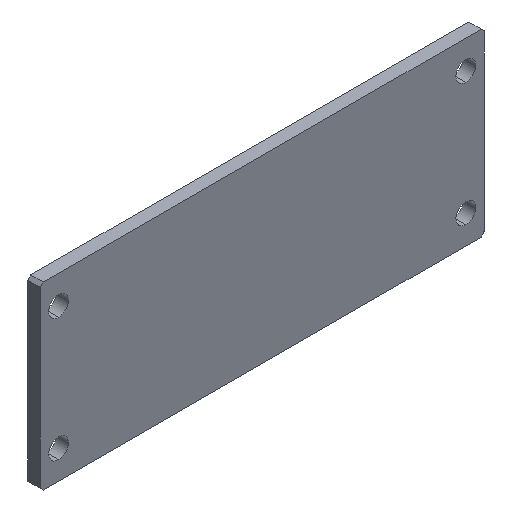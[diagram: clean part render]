
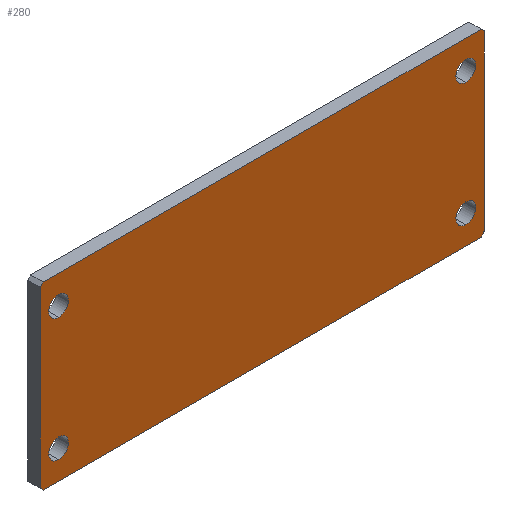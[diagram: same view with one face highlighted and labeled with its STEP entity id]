
A CAD part, isometric view. The second image highlights one B-rep face of the part: STEP entity #280.
In plain terms, the highlighted planar face has unit normal (0, -1, 0).
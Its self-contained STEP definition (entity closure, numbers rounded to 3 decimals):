
#8 = VERTEX_POINT ( 'NONE', #559 ) ;
#12 = VECTOR ( 'NONE', #384, 1000. ) ;
#13 = CARTESIAN_POINT ( 'NONE',  ( 0., 0., 0. ) ) ;
#14 = EDGE_LOOP ( 'NONE', ( #310, #248, #60, #255, #599, #478, #257, #180 ) ) ;
#17 = DIRECTION ( 'NONE',  ( -1., 0., 0. ) ) ;
#20 = CIRCLE ( 'NONE', #292, 1.6 ) ;
#24 = CARTESIAN_POINT ( 'NONE',  ( 69., 0., -24.6 ) ) ;
#26 = CARTESIAN_POINT ( 'NONE',  ( -14.35, 0., -14.35 ) ) ;
#29 = DIRECTION ( 'NONE',  ( 0., 0., -1. ) ) ;
#32 = EDGE_CURVE ( 'NONE', #471, #164, #329, .T. ) ;
#36 = DIRECTION ( 'NONE',  ( 0., 0., -1. ) ) ;
#60 = ORIENTED_EDGE ( 'NONE', *, *, #438, .F. ) ;
#69 = ORIENTED_EDGE ( 'NONE', *, *, #465, .F. ) ;
#71 = EDGE_CURVE ( 'NONE', #267, #520, #580, .T. ) ;
#72 = ORIENTED_EDGE ( 'NONE', *, *, #346, .F. ) ;
#75 = LINE ( 'NONE', #322, #514 ) ;
#77 = CARTESIAN_POINT ( 'NONE',  ( 0., 0., 0. ) ) ;
#89 = VECTOR ( 'NONE', #373, 1000. ) ;
#96 = DIRECTION ( 'NONE',  ( 0., -1., 0. ) ) ;
#99 = CARTESIAN_POINT ( 'NONE',  ( 69., 0., -6.2 ) ) ;
#102 = DIRECTION ( 'NONE',  ( 0., -1., 0. ) ) ;
#107 = EDGE_LOOP ( 'NONE', ( #196, #191 ) ) ;
#110 = AXIS2_PLACEMENT_3D ( 'NONE', #473, #134, #36 ) ;
#120 = EDGE_CURVE ( 'NONE', #471, #367, #228, .T. ) ;
#122 = LINE ( 'NONE', #167, #392 ) ;
#130 = VERTEX_POINT ( 'NONE', #442 ) ;
#134 = DIRECTION ( 'NONE',  ( 0., -1., 0. ) ) ;
#136 = CARTESIAN_POINT ( 'NONE',  ( 69., 0., -3. ) ) ;
#143 = CARTESIAN_POINT ( 'NONE',  ( 69., 0., -23. ) ) ;
#157 = VECTOR ( 'NONE', #366, 1000. ) ;
#161 = ORIENTED_EDGE ( 'NONE', *, *, #307, .F. ) ;
#164 = VERTEX_POINT ( 'NONE', #486 ) ;
#167 = CARTESIAN_POINT ( 'NONE',  ( 35.75, 0., 35.75 ) ) ;
#177 = ORIENTED_EDGE ( 'NONE', *, *, #233, .F. ) ;
#180 = ORIENTED_EDGE ( 'NONE', *, *, #120, .T. ) ;
#181 = CARTESIAN_POINT ( 'NONE',  ( 0.5, 0., -29.2 ) ) ;
#183 = DIRECTION ( 'NONE',  ( 0., 0., -1. ) ) ;
#191 = ORIENTED_EDGE ( 'NONE', *, *, #321, .F. ) ;
#193 = CARTESIAN_POINT ( 'NONE',  ( 69., 0., -26.2 ) ) ;
#196 = ORIENTED_EDGE ( 'NONE', *, *, #71, .F. ) ;
#199 = AXIS2_PLACEMENT_3D ( 'NONE', #342, #534, #296 ) ;
#201 = EDGE_LOOP ( 'NONE', ( #72, #527 ) ) ;
#212 = EDGE_CURVE ( 'NONE', #289, #623, #391, .T. ) ;
#219 = DIRECTION ( 'NONE',  ( 0.707, 0., -0.707 ) ) ;
#221 = CARTESIAN_POINT ( 'NONE',  ( 71.5, 0., -29.2 ) ) ;
#222 = CARTESIAN_POINT ( 'NONE',  ( 3., 0., -24.6 ) ) ;
#228 = LINE ( 'NONE', #421, #89 ) ;
#231 = CARTESIAN_POINT ( 'NONE',  ( 69., 0., -24.6 ) ) ;
#233 = EDGE_CURVE ( 'NONE', #437, #508, #468, .T. ) ;
#248 = ORIENTED_EDGE ( 'NONE', *, *, #349, .T. ) ;
#250 = AXIS2_PLACEMENT_3D ( 'NONE', #231, #96, #618 ) ;
#251 = VERTEX_POINT ( 'NONE', #598 ) ;
#254 = FACE_BOUND ( 'NONE', #365, .T. ) ;
#255 = ORIENTED_EDGE ( 'NONE', *, *, #605, .T. ) ;
#257 = ORIENTED_EDGE ( 'NONE', *, *, #32, .F. ) ;
#259 = PLANE ( 'NONE',  #430 ) ;
#267 = VERTEX_POINT ( 'NONE', #594 ) ;
#279 = DIRECTION ( 'NONE',  ( 0., -1., 0. ) ) ;
#280 = ADVANCED_FACE ( 'NONE', ( #507, #587, #254, #445, #357 ), #259, .T. ) ;
#287 = CARTESIAN_POINT ( 'NONE',  ( 72., 0., 0. ) ) ;
#289 = VERTEX_POINT ( 'NONE', #99 ) ;
#290 = VECTOR ( 'NONE', #555, 1000. ) ;
#292 = AXIS2_PLACEMENT_3D ( 'NONE', #24, #457, #364 ) ;
#296 = DIRECTION ( 'NONE',  ( 0., 0., -1. ) ) ;
#304 = DIRECTION ( 'NONE',  ( 0., -1., 0. ) ) ;
#305 = CIRCLE ( 'NONE', #250, 1.6 ) ;
#307 = EDGE_CURVE ( 'NONE', #623, #289, #589, .T. ) ;
#309 = DIRECTION ( 'NONE',  ( 0., 0., -1. ) ) ;
#310 = ORIENTED_EDGE ( 'NONE', *, *, #475, .F. ) ;
#318 = ORIENTED_EDGE ( 'NONE', *, *, #212, .F. ) ;
#321 = EDGE_CURVE ( 'NONE', #520, #267, #551, .T. ) ;
#322 = CARTESIAN_POINT ( 'NONE',  ( 0., 0., -29.2 ) ) ;
#324 = AXIS2_PLACEMENT_3D ( 'NONE', #450, #304, #354 ) ;
#326 = CARTESIAN_POINT ( 'NONE',  ( 0., 0., -0.5 ) ) ;
#327 = VERTEX_POINT ( 'NONE', #221 ) ;
#329 = LINE ( 'NONE', #77, #290 ) ;
#330 = CARTESIAN_POINT ( 'NONE',  ( 3., 0., -3. ) ) ;
#333 = CARTESIAN_POINT ( 'NONE',  ( 3., 0., -26.2 ) ) ;
#341 = VECTOR ( 'NONE', #571, 1000. ) ;
#342 = CARTESIAN_POINT ( 'NONE',  ( 3., 0., -4.6 ) ) ;
#346 = EDGE_CURVE ( 'NONE', #544, #553, #20, .T. ) ;
#349 = EDGE_CURVE ( 'NONE', #8, #602, #509, .T. ) ;
#354 = DIRECTION ( 'NONE',  ( 0., 0., -1. ) ) ;
#357 = FACE_OUTER_BOUND ( 'NONE', #14, .T. ) ;
#361 = CARTESIAN_POINT ( 'NONE',  ( 3., 0., -4.6 ) ) ;
#364 = DIRECTION ( 'NONE',  ( 0., 0., -1. ) ) ;
#365 = EDGE_LOOP ( 'NONE', ( #177, #69 ) ) ;
#366 = DIRECTION ( 'NONE',  ( 0., 0., 1. ) ) ;
#367 = VERTEX_POINT ( 'NONE', #326 ) ;
#368 = AXIS2_PLACEMENT_3D ( 'NONE', #222, #279, #183 ) ;
#372 = DIRECTION ( 'NONE',  ( -0.707, 0., 0.707 ) ) ;
#373 = DIRECTION ( 'NONE',  ( -0.707, 0., -0.707 ) ) ;
#379 = AXIS2_PLACEMENT_3D ( 'NONE', #361, #511, #461 ) ;
#380 = LINE ( 'NONE', #287, #12 ) ;
#383 = EDGE_CURVE ( 'NONE', #251, #164, #122, .T. ) ;
#384 = DIRECTION ( 'NONE',  ( 0., 0., -1. ) ) ;
#391 = CIRCLE ( 'NONE', #110, 1.6 ) ;
#392 = VECTOR ( 'NONE', #372, 1000. ) ;
#409 = CARTESIAN_POINT ( 'NONE',  ( 0.5, 0., 0. ) ) ;
#413 = DIRECTION ( 'NONE',  ( 0., -1., 0. ) ) ;
#421 = CARTESIAN_POINT ( 'NONE',  ( 0.25, 0., -0.25 ) ) ;
#423 = LINE ( 'NONE', #470, #341 ) ;
#430 = AXIS2_PLACEMENT_3D ( 'NONE', #13, #102, #309 ) ;
#431 = CIRCLE ( 'NONE', #379, 1.6 ) ;
#432 = CARTESIAN_POINT ( 'NONE',  ( 3., 0., -6.2 ) ) ;
#437 = VERTEX_POINT ( 'NONE', #330 ) ;
#438 = EDGE_CURVE ( 'NONE', #327, #602, #75, .T. ) ;
#442 = CARTESIAN_POINT ( 'NONE',  ( 72., 0., -28.7 ) ) ;
#445 = FACE_BOUND ( 'NONE', #201, .T. ) ;
#450 = CARTESIAN_POINT ( 'NONE',  ( 69., 0., -4.6 ) ) ;
#457 = DIRECTION ( 'NONE',  ( 0., -1., 0. ) ) ;
#460 = AXIS2_PLACEMENT_3D ( 'NONE', #495, #413, #29 ) ;
#461 = DIRECTION ( 'NONE',  ( 0., 0., -1. ) ) ;
#465 = EDGE_CURVE ( 'NONE', #508, #437, #431, .T. ) ;
#468 = CIRCLE ( 'NONE', #199, 1.6 ) ;
#469 = VECTOR ( 'NONE', #219, 1000. ) ;
#470 = CARTESIAN_POINT ( 'NONE',  ( 50.35, 0., -50.35 ) ) ;
#471 = VERTEX_POINT ( 'NONE', #409 ) ;
#473 = CARTESIAN_POINT ( 'NONE',  ( 69., 0., -4.6 ) ) ;
#475 = EDGE_CURVE ( 'NONE', #8, #367, #554, .T. ) ;
#478 = ORIENTED_EDGE ( 'NONE', *, *, #383, .T. ) ;
#486 = CARTESIAN_POINT ( 'NONE',  ( 71.5, 0., 0. ) ) ;
#495 = CARTESIAN_POINT ( 'NONE',  ( 3., 0., -24.6 ) ) ;
#507 = FACE_BOUND ( 'NONE', #107, .T. ) ;
#508 = VERTEX_POINT ( 'NONE', #432 ) ;
#509 = LINE ( 'NONE', #26, #469 ) ;
#511 = DIRECTION ( 'NONE',  ( 0., -1., 0. ) ) ;
#514 = VECTOR ( 'NONE', #17, 1000. ) ;
#520 = VERTEX_POINT ( 'NONE', #333 ) ;
#527 = ORIENTED_EDGE ( 'NONE', *, *, #564, .F. ) ;
#534 = DIRECTION ( 'NONE',  ( 0., -1., 0. ) ) ;
#544 = VERTEX_POINT ( 'NONE', #143 ) ;
#551 = CIRCLE ( 'NONE', #460, 1.6 ) ;
#553 = VERTEX_POINT ( 'NONE', #193 ) ;
#554 = LINE ( 'NONE', #603, #157 ) ;
#555 = DIRECTION ( 'NONE',  ( 1., 0., 0. ) ) ;
#559 = CARTESIAN_POINT ( 'NONE',  ( 0., 0., -28.7 ) ) ;
#564 = EDGE_CURVE ( 'NONE', #553, #544, #305, .T. ) ;
#571 = DIRECTION ( 'NONE',  ( 0.707, 0., 0.707 ) ) ;
#579 = EDGE_LOOP ( 'NONE', ( #161, #318 ) ) ;
#580 = CIRCLE ( 'NONE', #368, 1.6 ) ;
#587 = FACE_BOUND ( 'NONE', #579, .T. ) ;
#589 = CIRCLE ( 'NONE', #324, 1.6 ) ;
#594 = CARTESIAN_POINT ( 'NONE',  ( 3., 0., -23. ) ) ;
#597 = EDGE_CURVE ( 'NONE', #251, #130, #380, .T. ) ;
#598 = CARTESIAN_POINT ( 'NONE',  ( 72., 0., -0.5 ) ) ;
#599 = ORIENTED_EDGE ( 'NONE', *, *, #597, .F. ) ;
#602 = VERTEX_POINT ( 'NONE', #181 ) ;
#603 = CARTESIAN_POINT ( 'NONE',  ( 0., 0., 0. ) ) ;
#605 = EDGE_CURVE ( 'NONE', #327, #130, #423, .T. ) ;
#618 = DIRECTION ( 'NONE',  ( 0., 0., -1. ) ) ;
#623 = VERTEX_POINT ( 'NONE', #136 ) ;
